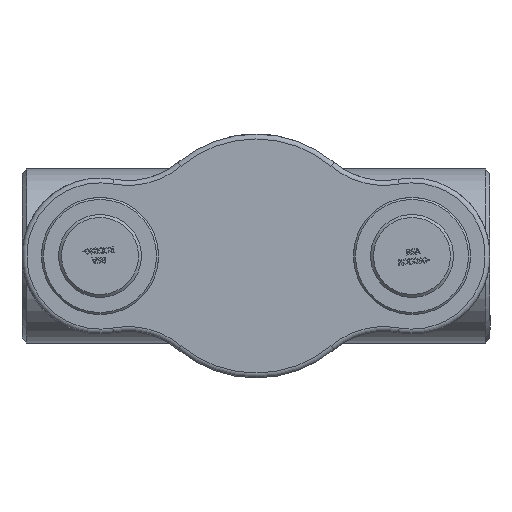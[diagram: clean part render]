
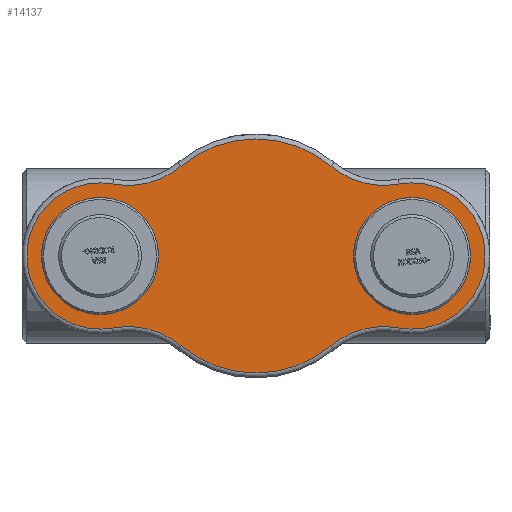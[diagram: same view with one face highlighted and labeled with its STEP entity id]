
A CAD part, front view. The second image highlights one B-rep face of the part: STEP entity #14137.
In plain terms, the highlighted planar face has unit normal (0, -1, 0) as drawn and (0, 0, -1) by its records, which use the part's own axes.
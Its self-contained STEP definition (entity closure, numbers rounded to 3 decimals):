
#3688=PLANE('',#15065);
#4036=FACE_BOUND('',#4987,.T.);
#4037=FACE_BOUND('',#4988,.T.);
#4147=FACE_OUTER_BOUND('',#4986,.T.);
#4986=EDGE_LOOP('',(#9748,#9749,#9750,#9751,#9752,#9753,#9754,#9755));
#4987=EDGE_LOOP('',(#9756));
#4988=EDGE_LOOP('',(#9757));
#5934=CIRCLE('',#15064,49.5);
#5935=CIRCLE('',#15066,75.);
#5936=CIRCLE('',#15067,85.);
#5937=CIRCLE('',#15068,120.);
#5938=CIRCLE('',#15069,85.);
#5939=CIRCLE('',#15070,75.);
#5940=CIRCLE('',#15071,85.);
#5941=CIRCLE('',#15072,120.);
#5942=CIRCLE('',#15073,85.);
#5943=CIRCLE('',#15074,49.5);
#6106=VERTEX_POINT('',#18163);
#6107=VERTEX_POINT('',#18166);
#6108=VERTEX_POINT('',#18167);
#6109=VERTEX_POINT('',#18169);
#6110=VERTEX_POINT('',#18171);
#6111=VERTEX_POINT('',#18173);
#6112=VERTEX_POINT('',#18175);
#6113=VERTEX_POINT('',#18177);
#6114=VERTEX_POINT('',#18179);
#6115=VERTEX_POINT('',#18182);
#7562=EDGE_CURVE('',#6106,#6106,#5934,.T.);
#7563=EDGE_CURVE('',#6107,#6108,#5935,.T.);
#7564=EDGE_CURVE('',#6109,#6107,#5936,.T.);
#7565=EDGE_CURVE('',#6110,#6109,#5937,.T.);
#7566=EDGE_CURVE('',#6111,#6110,#5938,.T.);
#7567=EDGE_CURVE('',#6112,#6111,#5939,.T.);
#7568=EDGE_CURVE('',#6113,#6112,#5940,.T.);
#7569=EDGE_CURVE('',#6114,#6113,#5941,.T.);
#7570=EDGE_CURVE('',#6108,#6114,#5942,.T.);
#7571=EDGE_CURVE('',#6115,#6115,#5943,.T.);
#9748=ORIENTED_EDGE('',*,*,#7563,.F.);
#9749=ORIENTED_EDGE('',*,*,#7564,.F.);
#9750=ORIENTED_EDGE('',*,*,#7565,.F.);
#9751=ORIENTED_EDGE('',*,*,#7566,.F.);
#9752=ORIENTED_EDGE('',*,*,#7567,.F.);
#9753=ORIENTED_EDGE('',*,*,#7568,.F.);
#9754=ORIENTED_EDGE('',*,*,#7569,.F.);
#9755=ORIENTED_EDGE('',*,*,#7570,.F.);
#9756=ORIENTED_EDGE('',*,*,#7571,.F.);
#9757=ORIENTED_EDGE('',*,*,#7562,.F.);
#14137=ADVANCED_FACE('',(#4147,#4036,#4037),#3688,.F.);
#15064=AXIS2_PLACEMENT_3D('',#18164,#15719,#15720);
#15065=AXIS2_PLACEMENT_3D('',#18165,#15721,#15722);
#15066=AXIS2_PLACEMENT_3D('',#18168,#15723,#15724);
#15067=AXIS2_PLACEMENT_3D('',#18170,#15725,#15726);
#15068=AXIS2_PLACEMENT_3D('',#18172,#15727,#15728);
#15069=AXIS2_PLACEMENT_3D('',#18174,#15729,#15730);
#15070=AXIS2_PLACEMENT_3D('',#18176,#15731,#15732);
#15071=AXIS2_PLACEMENT_3D('',#18178,#15733,#15734);
#15072=AXIS2_PLACEMENT_3D('',#18180,#15735,#15736);
#15073=AXIS2_PLACEMENT_3D('',#18181,#15737,#15738);
#15074=AXIS2_PLACEMENT_3D('',#18183,#15739,#15740);
#15719=DIRECTION('center_axis',(0.,0.,-1.));
#15720=DIRECTION('ref_axis',(1.,0.,0.));
#15721=DIRECTION('center_axis',(0.,0.,1.));
#15722=DIRECTION('ref_axis',(1.,0.,0.));
#15723=DIRECTION('center_axis',(0.,0.,1.));
#15724=DIRECTION('ref_axis',(-1.,0.,0.));
#15725=DIRECTION('center_axis',(0.,0.,-1.));
#15726=DIRECTION('ref_axis',(0.255,-0.967,0.));
#15727=DIRECTION('center_axis',(0.,0.,1.));
#15728=DIRECTION('ref_axis',(0.,1.,0.));
#15729=DIRECTION('center_axis',(0.,0.,-1.));
#15730=DIRECTION('ref_axis',(-0.255,-0.967,0.));
#15731=DIRECTION('center_axis',(0.,0.,1.));
#15732=DIRECTION('ref_axis',(1.,0.,0.));
#15733=DIRECTION('center_axis',(0.,0.,-1.));
#15734=DIRECTION('ref_axis',(-0.255,0.967,0.));
#15735=DIRECTION('center_axis',(0.,0.,1.));
#15736=DIRECTION('ref_axis',(0.,-1.,0.));
#15737=DIRECTION('center_axis',(0.,0.,-1.));
#15738=DIRECTION('ref_axis',(0.255,0.967,0.));
#15739=DIRECTION('center_axis',(0.,0.,-1.));
#15740=DIRECTION('ref_axis',(1.,0.,0.));
#18163=CARTESIAN_POINT('',(110.5,0.,0.));
#18164=CARTESIAN_POINT('Origin',(160.,0.,0.));
#18165=CARTESIAN_POINT('Origin',(0.,0.,0.));
#18166=CARTESIAN_POINT('',(-146.56,73.786,0.));
#18167=CARTESIAN_POINT('',(-146.56,-73.786,0.));
#18168=CARTESIAN_POINT('Origin',(-160.,0.,0.));
#18169=CARTESIAN_POINT('',(-76.875,92.142,0.));
#18170=CARTESIAN_POINT('Origin',(-131.328,157.41,0.));
#18171=CARTESIAN_POINT('',(76.875,92.142,0.));
#18172=CARTESIAN_POINT('Origin',(0.,0.,0.));
#18173=CARTESIAN_POINT('',(146.56,73.786,0.));
#18174=CARTESIAN_POINT('Origin',(131.328,157.41,0.));
#18175=CARTESIAN_POINT('',(146.56,-73.786,0.));
#18176=CARTESIAN_POINT('Origin',(160.,0.,0.));
#18177=CARTESIAN_POINT('',(76.875,-92.142,0.));
#18178=CARTESIAN_POINT('Origin',(131.328,-157.41,0.));
#18179=CARTESIAN_POINT('',(-76.875,-92.142,0.));
#18180=CARTESIAN_POINT('Origin',(0.,0.,0.));
#18181=CARTESIAN_POINT('Origin',(-131.328,-157.41,0.));
#18182=CARTESIAN_POINT('',(-209.5,0.,0.));
#18183=CARTESIAN_POINT('Origin',(-160.,0.,0.));
